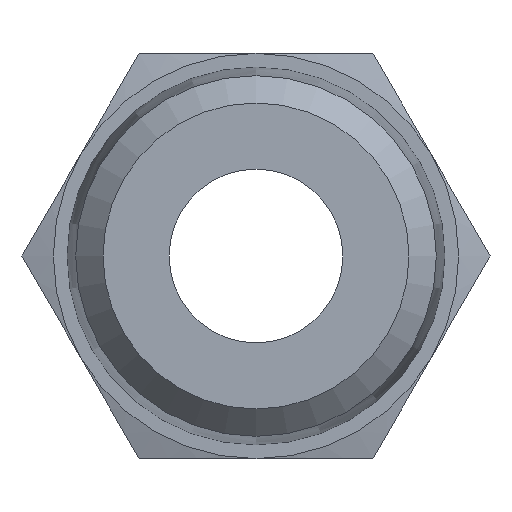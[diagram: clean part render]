
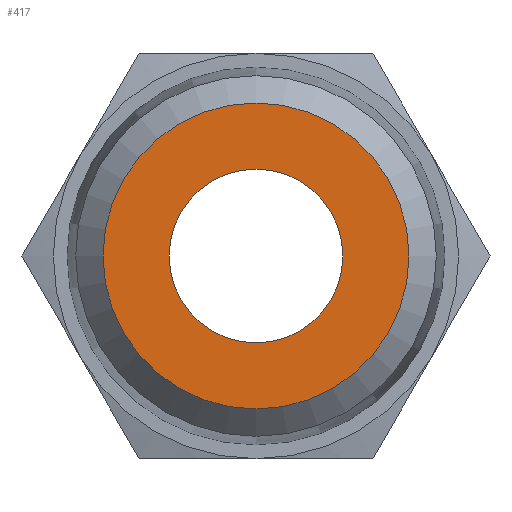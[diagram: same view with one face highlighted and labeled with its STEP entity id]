
A CAD part, left-side view. The second image highlights one B-rep face of the part: STEP entity #417.
In plain terms, the highlighted planar face has unit normal (-1, 0, 0).
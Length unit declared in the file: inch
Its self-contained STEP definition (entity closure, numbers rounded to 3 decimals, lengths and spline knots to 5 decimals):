
#37=PLANE('',#472);
#57=CIRCLE('',#473,0.33028);
#58=CIRCLE('',#474,0.1875);
#102=ORIENTED_EDGE('',*,*,#212,.F.);
#103=ORIENTED_EDGE('',*,*,#213,.T.);
#212=EDGE_CURVE('',#259,#259,#57,.T.);
#213=EDGE_CURVE('',#260,#260,#58,.T.);
#259=VERTEX_POINT('',#756);
#260=VERTEX_POINT('',#758);
#308=EDGE_LOOP('',(#102));
#309=EDGE_LOOP('',(#103));
#354=FACE_BOUND('',#308,.T.);
#355=FACE_BOUND('',#309,.T.);
#417=ADVANCED_FACE('',(#354,#355),#37,.F.);
#472=AXIS2_PLACEMENT_3D('',#754,#551,#552);
#473=AXIS2_PLACEMENT_3D('',#755,#553,#554);
#474=AXIS2_PLACEMENT_3D('',#757,#555,#556);
#551=DIRECTION('',(1.,0.,0.));
#552=DIRECTION('',(0.,0.,-1.));
#553=DIRECTION('',(1.,0.,0.));
#554=DIRECTION('',(0.,0.,-1.));
#555=DIRECTION('',(1.,0.,0.));
#556=DIRECTION('',(0.,0.,-1.));
#754=CARTESIAN_POINT('',(0.,0.,0.));
#755=CARTESIAN_POINT('',(0.,0.,0.));
#756=CARTESIAN_POINT('',(0.,0.,-0.33028));
#757=CARTESIAN_POINT('',(0.,0.,0.));
#758=CARTESIAN_POINT('',(0.,0.,-0.1875));
